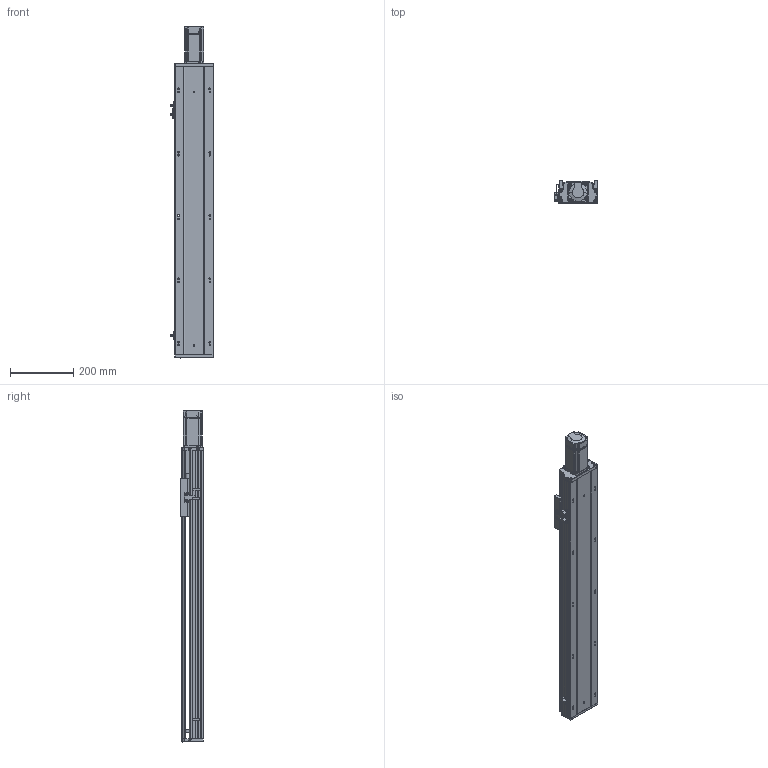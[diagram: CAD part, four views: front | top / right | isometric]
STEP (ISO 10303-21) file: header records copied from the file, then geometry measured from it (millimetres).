
FILE_DESCRIPTION (( 'STEP AP203' ), '1' );
FILE_NAME ('RY120Q-L1610-500-MK.SLDASM_0650.step', '2021-05-19T01:45:02', ( '盈信电脑' ), ( '东莞市道滘镇水果街19号' ), 'SwSTEP 2.0', 'SolidWorks 2016', '' );
FILE_SCHEMA (( 'CONFIG_CONTROL_DESIGN' ));
Length unit declared in the file: millimetre
Products named in the file (14): 滅袉蝶18-10; 15; RY120QGB-1.8; 侂狟400W侜督萇儂; RY120綴裔啣; 鞠褒坶踡蹟譫BK12 ; RY120Q-L1610-500-MK.SLDASM_0650; RY120萇儂釱FK12; RY120-500-MK倰第奻裔啣_0650; RY120外置感应片(140共用）; 覜茼ん672; RY120铝滑块16丝杆（FK12）; 滅袉蝶18-15; RY120-500-MK倰第菁釱_0650
Assembly tree (16 placements, depth 3):
  RY120Q-L1610-500-MK.SLDASM_0650
    RY120-500-MK倰第菁釱_0650
    RY120-500-MK倰第奻裔啣_0650
    侂狟400W侜督萇儂
      15
    鞠褒坶踡蹟譫BK12 
    RY120綴裔啣
    覜茼ん672  x3
    滅袉蝶18-10
    滅袉蝶18-15  x2
    RY120外置感应片(140共用）
    RY120QGB-1.8
    RY120铝滑块16丝杆（FK12）
    RY120萇儂釱FK12
Bounding box: 135.7 x 74 x 1048.5 mm (x, y, z)
Volume: 2860092.7 mm3; surface area: 987934.1 mm2
Topology: 16 solids, 16 shells, 2190 faces, 5999 edges, 3824 vertices
Faces by surface type: plane 1009, cylinder 841, cone 239, bspline 101
Entity records: 71635 total; most frequent: CARTESIAN_POINT 19847, ORIENTED_EDGE 10726, DIRECTION 10155, EDGE_CURVE 5363, AXIS2_PLACEMENT_3D 3496, VERTEX_POINT 3492, VECTOR 3163, LINE 3163
